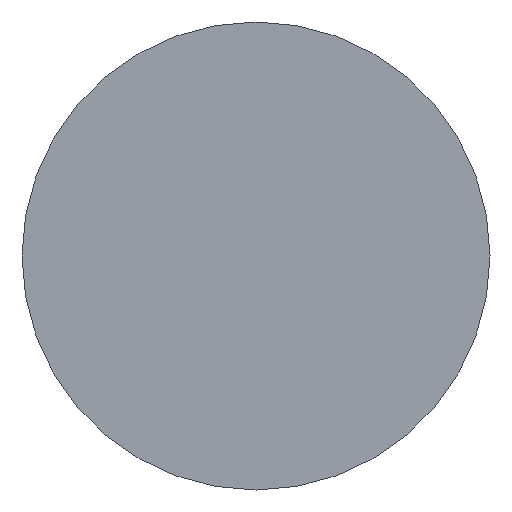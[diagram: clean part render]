
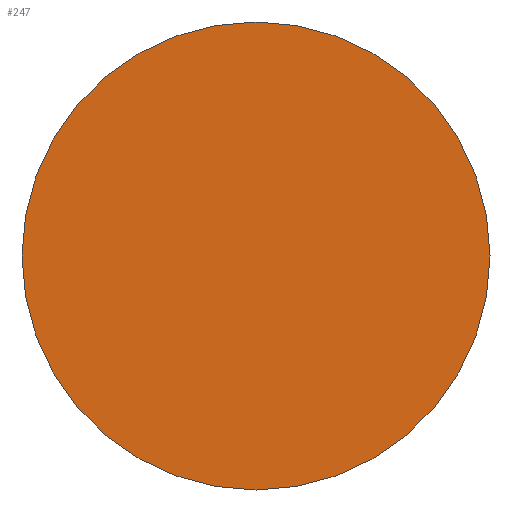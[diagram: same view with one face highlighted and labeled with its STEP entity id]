
A CAD part, left-side view. The second image highlights one B-rep face of the part: STEP entity #247.
In plain terms, the highlighted planar face has unit normal (-1, 0, 0).
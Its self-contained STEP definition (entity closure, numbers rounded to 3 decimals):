
#10 = PLANE ( 'NONE',  #131 ) ;
#11 = CARTESIAN_POINT ( 'NONE',  ( 0., 0., 0. ) ) ;
#29 = DIRECTION ( 'NONE',  ( 0., -1., 0. ) ) ;
#31 = CIRCLE ( 'NONE', #120, 5. ) ;
#36 = FACE_OUTER_BOUND ( 'NONE', #220, .T. ) ;
#61 = CARTESIAN_POINT ( 'NONE',  ( 0., 5., 0. ) ) ;
#70 = ORIENTED_EDGE ( 'NONE', *, *, #265, .F. ) ;
#95 = DIRECTION ( 'NONE',  ( 1., 0., 0. ) ) ;
#97 = VERTEX_POINT ( 'NONE', #267 ) ;
#111 = DIRECTION ( 'NONE',  ( 0., 1., 0. ) ) ;
#120 = AXIS2_PLACEMENT_3D ( 'NONE', #199, #257, #111 ) ;
#131 = AXIS2_PLACEMENT_3D ( 'NONE', #11, #177, #29 ) ;
#149 = ORIENTED_EDGE ( 'NONE', *, *, #197, .F. ) ;
#164 = VERTEX_POINT ( 'NONE', #61 ) ;
#177 = DIRECTION ( 'NONE',  ( -1., 0., 0. ) ) ;
#194 = AXIS2_PLACEMENT_3D ( 'NONE', #237, #95, #221 ) ;
#197 = EDGE_CURVE ( 'NONE', #97, #164, #228, .T. ) ;
#199 = CARTESIAN_POINT ( 'NONE',  ( 0., 0., 0. ) ) ;
#220 = EDGE_LOOP ( 'NONE', ( #70, #149 ) ) ;
#221 = DIRECTION ( 'NONE',  ( 0., 1., 0. ) ) ;
#228 = CIRCLE ( 'NONE', #194, 5. ) ;
#237 = CARTESIAN_POINT ( 'NONE',  ( 0., 0., 0. ) ) ;
#247 = ADVANCED_FACE ( 'NONE', ( #36 ), #10, .T. ) ;
#257 = DIRECTION ( 'NONE',  ( 1., 0., 0. ) ) ;
#265 = EDGE_CURVE ( 'NONE', #164, #97, #31, .T. ) ;
#267 = CARTESIAN_POINT ( 'NONE',  ( 0., -5., 0. ) ) ;
